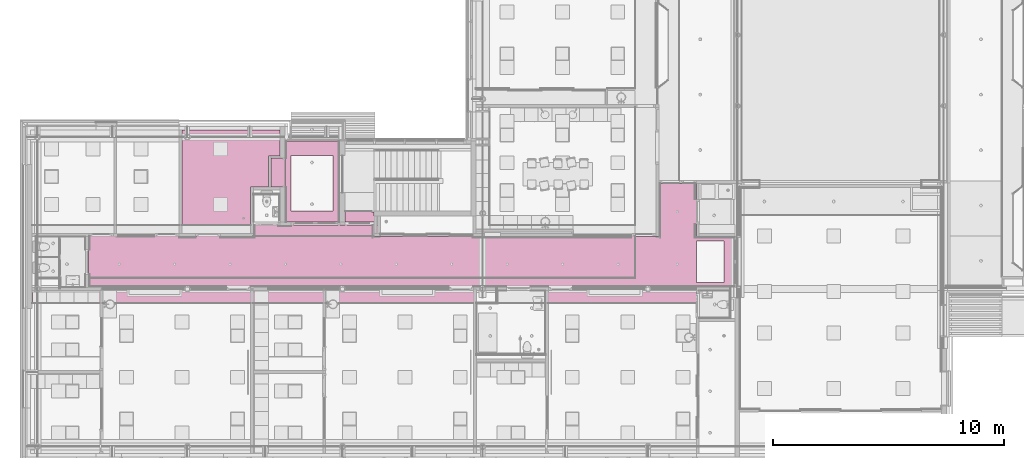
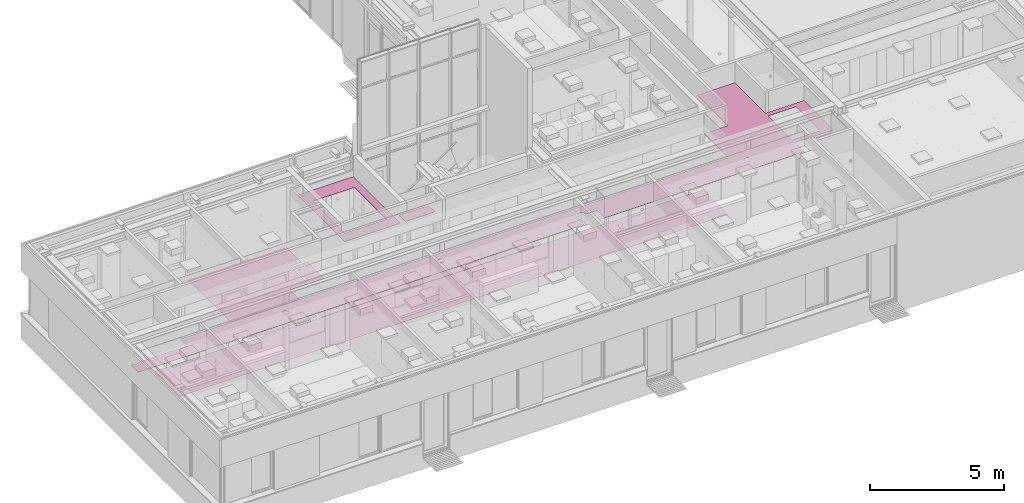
# One storey, part 317 of 347: 7 furnishings.
"""IFC2X3 building model written with IfcOpenShell, lengths in millimetres."""

import ifcopenshell
import ifcopenshell.guid

model = None  # the IFC model being written
_history = None  # IfcOwnerHistory: only IFC2X3 demands one
_inside = {}  # id of a spatial element -> (the spatial element, [elements in it])
_under = {}  # id of a project, library or spatial element -> (it, [spatial elements below it])
_declared = {}  # id of a project -> (the project, [libraries it declares])
_typed = {}  # id of a type object -> (the type object, [elements of that type])
_made_of = {}  # id of a material, layer set ... -> (it, [elements and type objects made of it])


def new_model(schema):
    """Start an empty IFC model of exactly this schema.

    Asked for "IFC4X3", IfcOpenShell would pick the latest addendum, in which some entities
    have other attributes; the version numbers below select the first issue.
    IFC2X3 requires an IfcOwnerHistory on every rooted entity: one is made here for all.
    """
    global model, _history
    if schema == "IFC4X3":
        model = ifcopenshell.file(schema_version=(4, 3, 0, 0))
    else:
        model = ifcopenshell.file(schema=schema)
    _inside.clear()
    _under.clear()
    _declared.clear()
    _typed.clear()
    _made_of.clear()
    _history = None
    if model.schema == "IFC2X3":
        org = make("IfcOrganization", Name="unknown")
        user = make(
            "IfcPersonAndOrganization",
            ThePerson=make("IfcPerson", FamilyName="unknown"),
            TheOrganization=org,
        )
        app = make(
            "IfcApplication",
            ApplicationDeveloper=org,
            Version="unknown",
            ApplicationFullName="unknown",
            ApplicationIdentifier="unknown",
        )
        _history = make(
            "IfcOwnerHistory",
            OwningUser=user,
            OwningApplication=app,
            ChangeAction="ADDED",
            CreationDate=0,
        )
    return model


def make(cls, **values):
    """One entity of the class cls with the attributes given. An attribute that is None is left unset."""
    return model.create_entity(
        cls, **{name: value for name, value in values.items() if value is not None}
    )


def entity(cls, *values):
    """Any entity or typed value of the class cls, its attributes in the order of the schema. None: left unset."""
    e = model.create_entity(cls)
    for i, value in enumerate(values):
        if value is not None:
            e[i] = value
    return e


def rooted(cls, **values):
    """An entity with a GlobalId (a new one), such as an element, a storey or a relation."""
    return make(cls, GlobalId=ifcopenshell.guid.new(), OwnerHistory=_history, **values)


def si_unit(unit_type, name, prefix=None):
    """IfcSIUnit, for example si_unit("LENGTHUNIT", "METRE", prefix="MILLI")."""
    return make("IfcSIUnit", UnitType=unit_type, Prefix=prefix, Name=name)


def converted_unit(unit_type, name, factor, base, dimensions=None, offset=None):
    """IfcConversionBasedUnit, such as the inch: factor (a typed value) times the base unit."""
    return make(
        "IfcConversionBasedUnit"
        if offset is None
        else "IfcConversionBasedUnitWithOffset",
        ConversionOffset=offset,
        Dimensions=None
        if dimensions is None
        else entity("IfcDimensionalExponents", *dimensions),
        UnitType=unit_type,
        Name=name,
        ConversionFactor=make(
            "IfcMeasureWithUnit", ValueComponent=factor, UnitComponent=base
        ),
    )


def derived_unit(unit_type, elements):
    """IfcDerivedUnit: a product of units, each with its exponent."""
    return make(
        "IfcDerivedUnit",
        Elements=[
            make("IfcDerivedUnitElement", Unit=unit, Exponent=power)
            for unit, power in elements
        ],
        UnitType=unit_type,
    )


def money_unit(currency):
    """IfcMonetaryUnit."""
    return make("IfcMonetaryUnit", Currency=currency)


def assignment(units):
    """IfcUnitAssignment: the units of a project."""
    return None if units is None else make("IfcUnitAssignment", Units=units)


def point(xyz):
    """IfcCartesianPoint."""
    return None if xyz is None else make("IfcCartesianPoint", Coordinates=xyz)


def direction(xyz):
    """IfcDirection."""
    return None if xyz is None else make("IfcDirection", DirectionRatios=xyz)


def frame(location, z_axis=None, x_axis=None):
    """IfcAxis2Placement3D, a coordinate frame: its origin and axes. An axis left out is left unset."""
    return make(
        "IfcAxis2Placement3D",
        Location=point(location),
        Axis=direction(z_axis),
        RefDirection=direction(x_axis),
    )


def origin_with_axes():
    """The frame at (0, 0, 0) with the z axis (0, 0, 1) and the x axis (1, 0, 0) written out."""
    return frame((0.0, 0.0, 0.0), z_axis=(0.0, 0.0, 1.0), x_axis=(1.0, 0.0, 0.0))


def place(relative_to, where):
    """IfcLocalPlacement: puts the frame where relative to a parent placement (None: the world)."""
    return make(
        "IfcLocalPlacement", PlacementRelTo=relative_to, RelativePlacement=where
    )


def context(
    kind, dimensions, precision=None, world=None, true_north=None, identifier=None
):
    """IfcGeometricRepresentationContext, for example the 3D "Model" context."""
    return make(
        "IfcGeometricRepresentationContext",
        ContextIdentifier=identifier,
        ContextType=kind,
        CoordinateSpaceDimension=dimensions,
        Precision=precision,
        WorldCoordinateSystem=world,
        TrueNorth=true_north,
    )


def subcontext(parent, identifier, kind, view, scale=None):
    """IfcGeometricRepresentationSubContext, for example "Body" below "Model"."""
    return make(
        "IfcGeometricRepresentationSubContext",
        ContextIdentifier=identifier,
        ContextType=kind,
        ParentContext=parent,
        TargetScale=scale,
        TargetView=view,
    )


def project(units=None, contexts=None):
    """IfcProject with its units and contexts."""
    return rooted(
        "IfcProject",
        Name="project",
        RepresentationContexts=contexts,
        UnitsInContext=assignment(units),
    )


def spatial(cls, under=None, at=None, **own):
    """A site, building, storey or space (cls), placed at a placement, below another one or the project."""
    s = rooted(cls, ObjectPlacement=at, **own)
    if under is not None:
        _under.setdefault(under.id(), (under, []))[1].append(s)
    return s


def faces_of(points, faces, orient=None, outer=None):
    """IfcFace entities. A face is a list of loops; a loop is a list of indices into points, from 0.

    orient and outer hold one flag for each loop. By default every Orientation is true, the
    first loop of a face is its IfcFaceOuterBound and the others are IfcFaceBound.
    """
    made = []
    for i, loops in enumerate(faces):
        bounds = []
        for j, loop in enumerate(loops):
            is_outer = j == 0 if outer is None else outer[i][j]
            bounds.append(
                make(
                    "IfcFaceOuterBound" if is_outer else "IfcFaceBound",
                    Bound=make("IfcPolyLoop", Polygon=[points[k] for k in loop]),
                    Orientation=True if orient is None else orient[i][j],
                )
            )
        made.append(make("IfcFace", Bounds=bounds))
    return made


def faceted_brep(points, faces, orient=None, outer=None, voids=None):
    """IfcFacetedBrep: a solid bounded by flat faces; with voids (closed shells), ...WithVoids."""
    shared = [point(p) for p in points]
    hull = make("IfcClosedShell", CfsFaces=faces_of(shared, faces, orient, outer))
    if voids is None:
        return make("IfcFacetedBrep", Outer=hull)
    return make(
        "IfcFacetedBrepWithVoids",
        Outer=hull,
        Voids=[
            make(cls, CfsFaces=faces_of(shared, fs, o, b)) for cls, fs, o, b in voids
        ],
    )


def shape(context_of_items, identifier, shape_type, items):
    """IfcShapeRepresentation: the items that make up one representation, for example the "Body"."""
    return make(
        "IfcShapeRepresentation",
        ContextOfItems=context_of_items,
        RepresentationIdentifier=identifier,
        RepresentationType=shape_type,
        Items=items,
    )


def material(Name=None, Category=None):
    """IfcMaterial."""
    return make("IfcMaterial", Name=Name, Category=Category)


def made_of(thing, what):
    """Note that an element or type object is made of a material, layer set ...; save() writes the relation."""
    if what is not None:
        _made_of.setdefault(what.id(), (what, []))[1].append(thing)
    return thing


def type_object(cls, material=None, **own):
    """A type object (cls), such as IfcWallType, which elements share."""
    return made_of(rooted(cls, **own), material)


def element(
    cls,
    number,
    at=None,
    inside=None,
    cuts=None,
    type_object=None,
    material=None,
    context=None,
    identifier="Body",
    shape_type=None,
    held_by="IfcProductDefinitionShape",
    body=None,
    shapes=None,
    **own,
):
    """One element of the class cls, such as IfcWall. Its Tag is "e" and its number.

    at: its placement. inside: the storey or other place that contains it. cuts: it is an
    opening in that element (IfcRelVoidsElement). A single representation is given by context,
    identifier, shape_type and body (its items); several are given by shapes. held_by: the class
    of the entity that holds the representations. save() writes the other relations.
    """
    e = rooted(cls, Tag="e%d" % number, ObjectPlacement=at, **own)
    if body is not None:
        shapes = [shape(context, identifier, shape_type, body)]
    if shapes is not None:
        e.Representation = make(held_by, Representations=shapes)
    if inside is not None:
        _inside.setdefault(inside.id(), (inside, []))[1].append(e)
    if cuts is not None:
        rooted(
            "IfcRelVoidsElement", RelatingBuildingElement=cuts, RelatedOpeningElement=e
        )
    if type_object is not None:
        _typed.setdefault(type_object.id(), (type_object, []))[1].append(e)
    return made_of(e, material)


def aggregate(whole, parts):
    """IfcRelAggregates: a whole, such as a stair, and the parts it consists of."""
    return rooted("IfcRelAggregates", RelatingObject=whole, RelatedObjects=parts)


def save(model, path):
    """Write the relations noted so far, then the file.

    IfcRelAggregates (storeys below a building ...), IfcRelContainedInSpatialStructure (elements
    in a storey), IfcRelDefinesByType, IfcRelAssociatesMaterial and IfcRelDeclares: one each for
    every whole, place, type object, material and project.
    """
    for whole, parts in _under.values():
        aggregate(whole, parts)
    for where, things in _inside.values():
        rooted(
            "IfcRelContainedInSpatialStructure",
            RelatedElements=things,
            RelatingStructure=where,
        )
    for kind, things in _typed.values():
        rooted("IfcRelDefinesByType", RelatedObjects=things, RelatingType=kind)
    for what, things in _made_of.values():
        rooted("IfcRelAssociatesMaterial", RelatedObjects=things, RelatingMaterial=what)
    for by, libraries in _declared.values():
        rooted("IfcRelDeclares", RelatingContext=by, RelatedDefinitions=libraries)
    model.write(path)


model = new_model("IFC2X3")

# Units and contexts
model_context = context("Model", 3, precision=0.01, world=origin_with_axes(), true_north=direction((0.0, 1.0)))
plan_context = context("Plan", 3, precision=0.01, world=origin_with_axes(), true_north=direction((0.0, 1.0)))
body_context = subcontext(model_context, "Body", "Model", "MODEL_VIEW")
ifc_project = project(units=[si_unit("LENGTHUNIT", "METRE", prefix="MILLI"), si_unit("AREAUNIT", "SQUARE_METRE"), si_unit("VOLUMEUNIT", "CUBIC_METRE"), converted_unit("PLANEANGLEUNIT", "DEGREE", entity("IfcPlaneAngleMeasure", 0.0174532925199), si_unit("PLANEANGLEUNIT", "RADIAN"), dimensions=[0, 0, 0, 0, 0, 0, 0]), money_unit("EUR"), converted_unit("TIMEUNIT", "Year", entity("IfcTimeMeasure", 31556926.0), si_unit("TIMEUNIT", "SECOND"), dimensions=[0, 0, 1, 0, 0, 0, 0]), si_unit("MASSUNIT", "GRAM", prefix="KILO"), si_unit("THERMODYNAMICTEMPERATUREUNIT", "DEGREE_CELSIUS"), si_unit("LUMINOUSINTENSITYUNIT", "LUMEN"), si_unit("ENERGYUNIT", "JOULE", prefix="MEGA"), derived_unit("THERMALCONDUCTANCEUNIT", [(si_unit("POWERUNIT", "WATT"), 1), (si_unit("LENGTHUNIT", "METRE"), -1), (si_unit("THERMODYNAMICTEMPERATUREUNIT", "KELVIN"), -1)]), derived_unit("SPECIFICHEATCAPACITYUNIT", [(si_unit("ENERGYUNIT", "JOULE"), 1), (si_unit("MASSUNIT", "GRAM", prefix="KILO"), -1), (si_unit("THERMODYNAMICTEMPERATUREUNIT", "KELVIN"), -1)]), derived_unit("MASSDENSITYUNIT", [(si_unit("MASSUNIT", "GRAM", prefix="KILO"), 1), (si_unit("VOLUMEUNIT", "CUBIC_METRE"), -1)])], contexts=[model_context, plan_context])

# Site, building, storey
site_placement = place(None, origin_with_axes())
site = spatial("IfcSite", under=ifc_project, at=site_placement, Name="Site", CompositionType="ELEMENT")
building_placement = place(site_placement, origin_with_axes())
building = spatial("IfcBuilding", under=site, at=building_placement, Name="Naam gebouw", CompositionType="ELEMENT")
storey_placement = place(building_placement, origin_with_axes())
storey = spatial("IfcBuildingStorey", under=building, at=storey_placement, Name="begane grond", CompositionType="ELEMENT", Elevation=0.0)

# Furnishings
ifc_material_1 = material(Name="ALG - LICHTE SCHEIDINGSWAND")
furniture_type_1 = type_object("IfcFurnitureType", Name="44 koof plaf 50", AssemblyPlace="NOTDEFINED")
furnishing_1_placement = place(storey_placement, frame((18615.0, 15015.0, 2600.0), z_axis=(0.0, 0.0, 1.0), x_axis=(1.0, 0.0, 0.0)))
element("IfcFurnishingElement", 1, at=furnishing_1_placement, inside=storey, type_object=furniture_type_1, material=ifc_material_1, Name="72_75 vaste inrichting", ObjectType="SHELF", context=body_context, shape_type="Brep", body=[
    faceted_brep([(1290.0, 0.0, 0.0), (1290.0, 275.0, 0.0), (1290.0, 275.0, 12.0), (1290.0, 0.0, 12.0), (1250.0, 435.0, 0.0), (1250.0, 275.0, 0.0), (0.0, 0.0, 0.0), (0.0, 485.0, 0.0), (1150.0, 485.0, 0.0), (1150.0, 435.0, 0.0), (1250.0, 275.0, 12.0), (1250.0, 435.0, 12.0), (1150.0, 435.0, 12.0), (1150.0, 485.0, 12.0), (0.0, 485.0, 12.0), (0.0, 0.0, 12.0)], [[[0, 1, 2, 3]], [[4, 5, 1, 0, 6, 7, 8, 9]], [[5, 10, 2, 1]], [[11, 12, 13, 14, 15, 3, 2, 10]], [[3, 15, 6, 0]], [[4, 11, 10, 5]], [[15, 14, 7, 6]], [[14, 13, 8, 7]], [[9, 8, 13, 12]], [[9, 12, 11, 4]]]),
])
furnishing_2_placement = place(storey_placement, frame((16005.0, 15015.0, 2600.0), z_axis=(0.0, 0.0, 1.0), x_axis=(1.0, 0.0, 0.0)))
element("IfcFurnishingElement", 2, at=furnishing_2_placement, inside=storey, type_object=furniture_type_1, material=ifc_material_1, Name="72_75 vaste inrichting", ObjectType="SHELF", context=body_context, shape_type="Brep", body=[
    faceted_brep([(0.0, 0.0, 12.0), (0.0, 0.0, 0.0), (2400.0, 0.0, 0.0), (2400.0, 0.0, 12.0), (0.0, 3518.00000094, 12.0), (0.0, 3518.00000094, 0.0), (2400.0, 3518.00000094, 0.0), (280.000052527, 2885.0, 0.0), (280.000052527, 485.0, 0.0), (2080.00005253, 485.0, 0.0), (2080.00005253, 2885.0, 0.0), (2400.0, 3518.00000094, 12.0), (2080.00005253, 485.0, 12.0), (280.000052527, 485.0, 12.0), (280.000052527, 2885.0, 12.0), (2080.00005253, 2885.0, 12.0)], [[[0, 1, 2, 3]], [[4, 5, 1, 0]], [[2, 1, 5, 6], [7, 8, 9, 10]], [[3, 2, 6, 11]], [[4, 0, 3, 11], [12, 13, 14, 15]], [[11, 6, 5, 4]], [[13, 8, 7, 14]], [[12, 9, 8, 13]], [[15, 10, 9, 12]], [[14, 7, 10, 15]]]),
])
furnishing_3_placement = place(storey_placement, frame((7500.00013636, 12062.5, 2600.0), z_axis=(0.0, 0.0, 1.0), x_axis=(1.0, 0.0, 0.0)))
element("IfcFurnishingElement", 3, at=furnishing_3_placement, inside=storey, type_object=furniture_type_1, material=ifc_material_1, Name="72_75 vaste inrichting", ObjectType="SHELF", context=body_context, shape_type="Brep", body=[
    faceted_brep([(17170.5787624, 138.721628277, 12.0), (17185.1433077, 115.542287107, 12.0), (17194.1848009, 89.7031841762, 12.0), (17197.2498636, 62.5, 12.0), (17194.1848009, 35.2968158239, 12.0), (17185.1433077, 9.4577128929, 12.0), (17179.2006329, 0.0, 12.0), (17699.9998636, 0.0, 12.0), (17699.9998636, -562.50002799, 12.0), (26324.9998636, -562.50002799, 12.0), (26324.9998636, 125.0, 12.0), (27994.9998636, 125.0, 12.0), (27994.9998636, 2337.5, 12.0), (26324.9998636, 2337.5, 12.0), (26324.9998636, 4637.49999887, 12.0), (24699.9998636, 4637.49999887, 12.0), (24699.9998636, 2337.5, 12.0), (23674.9998636, 2337.5, 12.0), (23674.9998636, 537.5, 12.0), (0.0, 537.5, 12.0), (0.0, 0.0, 12.0), (-2095.79936714, 0.0, 12.0), (-2104.42123763, -13.7216282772, 12.0), (-2123.77850809, -33.0788987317, 12.0), (-2146.95784926, -47.6434441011, 12.0), (-2172.79695219, -56.6849372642, 12.0), (-2200.00013636, -59.75, 12.0), (-2227.20332054, -56.6849372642, 12.0), (-2253.04242347, -47.6434441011, 12.0), (-2276.22176464, -33.0788987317, 12.0), (-2295.5790351, -13.7216282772, 12.0), (-2304.20090559, 0.0, 12.0), (-2440.00013637, 0.0, 12.0), (-2440.00013637, -562.50002799, 12.0), (16799.9998636, -562.50002799, 12.0), (16799.9998636, 0.0, 12.0), (16970.7990944, 0.0, 12.0), (16964.8564195, 9.4577128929, 12.0), (16955.8149264, 35.2968158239, 12.0), (16952.7498636, 62.5, 12.0), (16955.8149264, 89.7031841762, 12.0), (16964.8564195, 115.542287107, 12.0), (16979.4209649, 138.721628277, 12.0), (16998.7782354, 158.078898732, 12.0), (17021.9575765, 172.643444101, 12.0), (17047.7966795, 181.684937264, 12.0), (17074.9998636, 184.75, 12.0), (17102.2030478, 181.684937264, 12.0), (17128.0421507, 172.643444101, 12.0), (17151.2214919, 158.078898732, 12.0), (27524.9998636, 337.5, 12.0), (26324.9998636, 337.5, 12.0), (26324.9998636, 2137.5, 12.0), (27524.9998636, 2137.5, 12.0), (24333.0787624, 138.721628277, 12.0), (24347.6433077, 115.542287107, 12.0), (24356.6848009, 89.7031841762, 12.0), (24359.7498636, 62.5, 12.0), (24356.6848009, 35.2968158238, 12.0), (24347.6433077, 9.45771289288, 12.0), (24333.0787624, -13.7216282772, 12.0), (24313.7214919, -33.0788987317, 12.0), (24290.5421507, -47.6434441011, 12.0), (24264.7030478, -56.6849372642, 12.0), (24237.4998636, -59.75, 12.0), (24210.2966795, -56.6849372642, 12.0), (24184.4575765, -47.6434441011, 12.0), (24161.2782354, -33.0788987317, 12.0), (24141.9209649, -13.7216282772, 12.0), (24127.3564195, 9.45771289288, 12.0), (24118.3149264, 35.2968158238, 12.0), (24115.2498636, 62.5, 12.0), (24118.3149264, 89.7031841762, 12.0), (24127.3564195, 115.542287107, 12.0), (24141.9209649, 138.721628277, 12.0), (24161.2782354, 158.078898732, 12.0), (24184.4575765, 172.643444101, 12.0), (24210.2966795, 181.684937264, 12.0), (24237.4998636, 184.75, 12.0), (24264.7030478, 181.684937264, 12.0), (24290.5421507, 172.643444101, 12.0), (24313.7214919, 158.078898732, 12.0), (4383.07876237, 138.721628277, 12.0), (4397.64330774, 115.542287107, 12.0), (4406.6848009, 89.7031841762, 12.0), (4409.74986363, 62.5, 12.0), (4406.6848009, 35.2968158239, 12.0), (4397.64330774, 9.4577128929, 12.0), (4383.07876237, -13.7216282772, 12.0), (4363.72149191, -33.0788987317, 12.0), (4340.54215074, -47.6434441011, 12.0), (4314.70304781, -56.6849372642, 12.0), (4287.49986363, -59.75, 12.0), (4260.29667946, -56.6849372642, 12.0), (4234.45757653, -47.6434441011, 12.0), (4211.27823536, -33.0788987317, 12.0), (4191.9209649, -13.7216282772, 12.0), (4177.35641953, 9.4577128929, 12.0), (4168.31492637, 35.2968158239, 12.0), (4165.24986363, 62.5, 12.0), (4168.31492637, 89.7031841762, 12.0), (4177.35641953, 115.542287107, 12.0), (4191.9209649, 138.721628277, 12.0), (4211.27823536, 158.078898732, 12.0), (4234.45757653, 172.643444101, 12.0), (4260.29667946, 181.684937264, 12.0), (4287.49986363, 184.75, 12.0), (4314.70304781, 181.684937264, 12.0), (4340.54215074, 172.643444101, 12.0), (4363.72149191, 158.078898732, 12.0), (11100.5787624, 138.721628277, 12.0), (11115.1433077, 115.542287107, 12.0), (11124.1848009, 89.7031841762, 12.0), (11127.2498636, 62.5, 12.0), (11124.1848009, 35.2968158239, 12.0), (11115.1433077, 9.4577128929, 12.0), (11100.5787624, -13.7216282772, 12.0), (11081.2214919, -33.0788987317, 12.0), (11058.0421507, -47.6434441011, 12.0), (11032.2030478, -56.6849372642, 12.0), (11004.9998636, -59.75, 12.0), (10977.7966795, -56.6849372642, 12.0), (10951.9575765, -47.6434441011, 12.0), (10928.7782354, -33.0788987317, 12.0), (10909.4209649, -13.7216282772, 12.0), (10894.8564195, 9.4577128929, 12.0), (10885.8149264, 35.2968158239, 12.0), (10882.7498636, 62.5, 12.0), (10885.8149264, 89.7031841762, 12.0), (10894.8564195, 115.542287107, 12.0), (10909.4209649, 138.721628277, 12.0), (10928.7782354, 158.078898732, 12.0), (10951.9575765, 172.643444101, 12.0), (10977.7966795, 181.684937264, 12.0), (11004.9998636, 184.75, 12.0), (11032.2030478, 181.684937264, 12.0), (11058.0421507, 172.643444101, 12.0), (11081.2214919, 158.078898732, 12.0), (17185.1433077, 115.542287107, 0.0), (17170.5787624, 138.721628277, 0.0), (17194.1848009, 89.7031841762, 0.0), (17197.2498636, 62.5, 0.0), (17194.1848009, 35.2968158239, 0.0), (17185.1433077, 9.4577128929, 0.0), (17179.2006329, 0.0, 0.0), (17699.9998636, 0.0, 0.0), (17699.9998636, -562.50002799, 0.0), (26324.9998636, -562.50002799, 0.0), (26324.9998636, 125.0, 0.0), (27994.9998636, 125.0, 0.0), (27994.9998636, 2337.5, 0.0), (26324.9998636, 2337.5, 0.0), (26324.9998636, 4637.49999887, 0.0), (24699.9998636, 4637.49999887, 0.0), (24699.9998636, 2337.5, 0.0), (23674.9998636, 2337.5, 0.0), (23674.9998636, 537.5, 0.0), (0.0, 537.5, 0.0), (0.0, 0.0, 0.0), (-2095.79936714, 0.0, 0.0), (-2104.42123763, -13.7216282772, 0.0), (-2123.77850809, -33.0788987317, 0.0), (-2146.95784926, -47.6434441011, 0.0), (-2172.79695219, -56.6849372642, 0.0), (-2200.00013636, -59.75, 0.0), (-2227.20332054, -56.6849372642, 0.0), (-2253.04242347, -47.6434441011, 0.0), (-2276.22176464, -33.0788987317, 0.0), (-2295.5790351, -13.7216282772, 0.0), (-2304.20090559, 0.0, 0.0), (-2440.00013637, 0.0, 0.0), (-2440.00013637, -562.50002799, 0.0), (16799.9998636, -562.50002799, 0.0), (16799.9998636, 0.0, 0.0), (16970.7990944, 0.0, 0.0), (16964.8564195, 9.4577128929, 0.0), (16955.8149264, 35.2968158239, 0.0), (16952.7498636, 62.5, 0.0), (16955.8149264, 89.7031841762, 0.0), (16964.8564195, 115.542287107, 0.0), (16979.4209649, 138.721628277, 0.0), (16998.7782354, 158.078898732, 0.0), (17021.9575765, 172.643444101, 0.0), (17047.7966795, 181.684937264, 0.0), (17074.9998636, 184.75, 0.0), (17102.2030478, 181.684937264, 0.0), (17128.0421507, 172.643444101, 0.0), (17151.2214919, 158.078898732, 0.0), (27524.9998636, 337.5, 0.0), (26324.9998636, 337.5, 0.0), (26324.9998636, 2137.5, 0.0), (27524.9998636, 2137.5, 0.0), (24347.6433077, 115.542287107, 0.0), (24333.0787624, 138.721628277, 0.0), (24356.6848009, 89.7031841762, 0.0), (24359.7498636, 62.5, 0.0), (24356.6848009, 35.2968158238, 0.0), (24347.6433077, 9.45771289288, 0.0), (24333.0787624, -13.7216282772, 0.0), (24313.7214919, -33.0788987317, 0.0), (24290.5421507, -47.6434441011, 0.0), (24264.7030478, -56.6849372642, 0.0), (24237.4998636, -59.75, 0.0), (24210.2966795, -56.6849372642, 0.0), (24184.4575765, -47.6434441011, 0.0), (24161.2782354, -33.0788987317, 0.0), (24141.9209649, -13.7216282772, 0.0), (24127.3564195, 9.45771289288, 0.0), (24118.3149264, 35.2968158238, 0.0), (24115.2498636, 62.5, 0.0), (24118.3149264, 89.7031841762, 0.0), (24127.3564195, 115.542287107, 0.0), (24141.9209649, 138.721628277, 0.0), (24161.2782354, 158.078898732, 0.0), (24184.4575765, 172.643444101, 0.0), (24210.2966795, 181.684937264, 0.0), (24237.4998636, 184.75, 0.0), (24264.7030478, 181.684937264, 0.0), (24290.5421507, 172.643444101, 0.0), (24313.7214919, 158.078898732, 0.0), (4397.64330774, 115.542287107, 0.0), (4383.07876237, 138.721628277, 0.0), (4406.6848009, 89.7031841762, 0.0), (4409.74986363, 62.5, 0.0), (4406.6848009, 35.2968158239, 0.0), (4397.64330774, 9.4577128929, 0.0), (4383.07876237, -13.7216282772, 0.0), (4363.72149191, -33.0788987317, 0.0), (4340.54215074, -47.6434441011, 0.0), (4314.70304781, -56.6849372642, 0.0), (4287.49986363, -59.75, 0.0), (4260.29667946, -56.6849372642, 0.0), (4234.45757653, -47.6434441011, 0.0), (4211.27823536, -33.0788987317, 0.0), (4191.9209649, -13.7216282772, 0.0), (4177.35641953, 9.4577128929, 0.0), (4168.31492637, 35.2968158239, 0.0), (4165.24986363, 62.5, 0.0), (4168.31492637, 89.7031841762, 0.0), (4177.35641953, 115.542287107, 0.0), (4191.9209649, 138.721628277, 0.0), (4211.27823536, 158.078898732, 0.0), (4234.45757653, 172.643444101, 0.0), (4260.29667946, 181.684937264, 0.0), (4287.49986363, 184.75, 0.0), (4314.70304781, 181.684937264, 0.0), (4340.54215074, 172.643444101, 0.0), (4363.72149191, 158.078898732, 0.0), (11115.1433077, 115.542287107, 0.0), (11100.5787624, 138.721628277, 0.0), (11124.1848009, 89.7031841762, 0.0), (11127.2498636, 62.5, 0.0), (11124.1848009, 35.2968158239, 0.0), (11115.1433077, 9.4577128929, 0.0), (11100.5787624, -13.7216282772, 0.0), (11081.2214919, -33.0788987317, 0.0), (11058.0421507, -47.6434441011, 0.0), (11032.2030478, -56.6849372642, 0.0), (11004.9998636, -59.75, 0.0), (10977.7966795, -56.6849372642, 0.0), (10951.9575765, -47.6434441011, 0.0), (10928.7782354, -33.0788987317, 0.0), (10909.4209649, -13.7216282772, 0.0), (10894.8564195, 9.4577128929, 0.0), (10885.8149264, 35.2968158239, 0.0), (10882.7498636, 62.5, 0.0), (10885.8149264, 89.7031841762, 0.0), (10894.8564195, 115.542287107, 0.0), (10909.4209649, 138.721628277, 0.0), (10928.7782354, 158.078898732, 0.0), (10951.9575765, 172.643444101, 0.0), (10977.7966795, 181.684937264, 0.0), (11004.9998636, 184.75, 0.0), (11032.2030478, 181.684937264, 0.0), (11058.0421507, 172.643444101, 0.0), (11081.2214919, 158.078898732, 0.0)], [[[0, 1, 2, 3, 4, 5, 6, 7, 8, 9, 10, 11, 12, 13, 14, 15, 16, 17, 18, 19, 20, 21, 22, 23, 24, 25, 26, 27, 28, 29, 30, 31, 32, 33, 34, 35, 36, 37, 38, 39, 40, 41, 42, 43, 44, 45, 46, 47, 48, 49], [50, 51, 52, 53], [54, 55, 56, 57, 58, 59, 60, 61, 62, 63, 64, 65, 66, 67, 68, 69, 70, 71, 72, 73, 74, 75, 76, 77, 78, 79, 80, 81], [82, 83, 84, 85, 86, 87, 88, 89, 90, 91, 92, 93, 94, 95, 96, 97, 98, 99, 100, 101, 102, 103, 104, 105, 106, 107, 108, 109], [110, 111, 112, 113, 114, 115, 116, 117, 118, 119, 120, 121, 122, 123, 124, 125, 126, 127, 128, 129, 130, 131, 132, 133, 134, 135, 136, 137]], [[138, 1, 0, 139]], [[140, 2, 1, 138]], [[141, 3, 2, 140]], [[142, 4, 3, 141]], [[143, 5, 4, 142]], [[144, 6, 5, 143]], [[7, 6, 144, 145]], [[8, 7, 145, 146]], [[9, 8, 146, 147]], [[10, 9, 147, 148]], [[11, 10, 148, 149]], [[12, 11, 149, 150]], [[13, 12, 150, 151]], [[14, 13, 151, 152]], [[15, 14, 152, 153]], [[16, 15, 153, 154]], [[17, 16, 154, 155]], [[18, 17, 155, 156]], [[19, 18, 156, 157]], [[20, 19, 157, 158]], [[158, 159, 21, 20]], [[160, 22, 21, 159]], [[161, 23, 22, 160]], [[162, 24, 23, 161]], [[163, 25, 24, 162]], [[164, 26, 25, 163]], [[165, 27, 26, 164]], [[166, 28, 27, 165]], [[167, 29, 28, 166]], [[168, 30, 29, 167]], [[169, 31, 30, 168]], [[32, 31, 169, 170]], [[33, 32, 170, 171]], [[34, 33, 171, 172]], [[35, 34, 172, 173]], [[173, 174, 36, 35]], [[175, 37, 36, 174]], [[176, 38, 37, 175]], [[177, 39, 38, 176]], [[178, 40, 39, 177]], [[179, 41, 40, 178]], [[180, 42, 41, 179]], [[181, 43, 42, 180]], [[182, 44, 43, 181]], [[183, 45, 44, 182]], [[184, 46, 45, 183]], [[185, 47, 46, 184]], [[186, 48, 47, 185]], [[187, 49, 48, 186]], [[139, 0, 49, 187]], [[51, 50, 188, 189]], [[52, 51, 189, 190]], [[53, 52, 190, 191]], [[50, 53, 191, 188]], [[192, 55, 54, 193]], [[194, 56, 55, 192]], [[195, 57, 56, 194]], [[196, 58, 57, 195]], [[197, 59, 58, 196]], [[198, 60, 59, 197]], [[199, 61, 60, 198]], [[200, 62, 61, 199]], [[201, 63, 62, 200]], [[202, 64, 63, 201]], [[203, 65, 64, 202]], [[204, 66, 65, 203]], [[205, 67, 66, 204]], [[206, 68, 67, 205]], [[207, 69, 68, 206]], [[208, 70, 69, 207]], [[209, 71, 70, 208]], [[210, 72, 71, 209]], [[211, 73, 72, 210]], [[212, 74, 73, 211]], [[213, 75, 74, 212]], [[214, 76, 75, 213]], [[215, 77, 76, 214]], [[216, 78, 77, 215]], [[217, 79, 78, 216]], [[218, 80, 79, 217]], [[219, 81, 80, 218]], [[193, 54, 81, 219]], [[220, 83, 82, 221]], [[222, 84, 83, 220]], [[223, 85, 84, 222]], [[224, 86, 85, 223]], [[225, 87, 86, 224]], [[226, 88, 87, 225]], [[227, 89, 88, 226]], [[228, 90, 89, 227]], [[229, 91, 90, 228]], [[230, 92, 91, 229]], [[231, 93, 92, 230]], [[232, 94, 93, 231]], [[233, 95, 94, 232]], [[234, 96, 95, 233]], [[235, 97, 96, 234]], [[236, 98, 97, 235]], [[237, 99, 98, 236]], [[238, 100, 99, 237]], [[239, 101, 100, 238]], [[240, 102, 101, 239]], [[241, 103, 102, 240]], [[242, 104, 103, 241]], [[243, 105, 104, 242]], [[244, 106, 105, 243]], [[245, 107, 106, 244]], [[246, 108, 107, 245]], [[247, 109, 108, 246]], [[221, 82, 109, 247]], [[248, 111, 110, 249]], [[250, 112, 111, 248]], [[251, 113, 112, 250]], [[252, 114, 113, 251]], [[253, 115, 114, 252]], [[254, 116, 115, 253]], [[255, 117, 116, 254]], [[256, 118, 117, 255]], [[257, 119, 118, 256]], [[258, 120, 119, 257]], [[259, 121, 120, 258]], [[260, 122, 121, 259]], [[261, 123, 122, 260]], [[262, 124, 123, 261]], [[263, 125, 124, 262]], [[264, 126, 125, 263]], [[265, 127, 126, 264]], [[266, 128, 127, 265]], [[267, 129, 128, 266]], [[268, 130, 129, 267]], [[269, 131, 130, 268]], [[270, 132, 131, 269]], [[271, 133, 132, 270]], [[272, 134, 133, 271]], [[273, 135, 134, 272]], [[274, 136, 135, 273]], [[275, 137, 136, 274]], [[249, 110, 137, 275]], [[176, 175, 174, 173, 172, 171, 170, 169, 168, 167, 166, 165, 164, 163, 162, 161, 160, 159, 158, 157, 156, 155, 154, 153, 152, 151, 150, 149, 148, 147, 146, 145, 144, 143, 142, 141, 140, 138, 139, 187, 186, 185, 184, 183, 182, 181, 180, 179, 178, 177], [188, 191, 190, 189], [198, 197, 196, 195, 194, 192, 193, 219, 218, 217, 216, 215, 214, 213, 212, 211, 210, 209, 208, 207, 206, 205, 204, 203, 202, 201, 200, 199], [226, 225, 224, 223, 222, 220, 221, 247, 246, 245, 244, 243, 242, 241, 240, 239, 238, 237, 236, 235, 234, 233, 232, 231, 230, 229, 228, 227], [254, 253, 252, 251, 250, 248, 249, 275, 274, 273, 272, 271, 270, 269, 268, 267, 266, 265, 264, 263, 262, 261, 260, 259, 258, 257, 256, 255]]]),
])
ifc_material_2 = material(Name="43 fresco Barbados 3858")
furniture_type_2 = type_object("IfcFurnitureType", Name="43 fresco Barbados 3858 2", AssemblyPlace="NOTDEFINED")
furnishing_4_placement = place(storey_placement, frame((7500.0, 12600.0, 0.0), z_axis=(0.0, 0.0, 1.0), x_axis=(1.0, 0.0, 0.0)))
element("IfcFurnishingElement", 4, at=furnishing_4_placement, inside=storey, type_object=furniture_type_2, material=ifc_material_2, Name="72_43 marmoleum", ObjectType="SHELF", context=body_context, shape_type="Brep", body=[
    faceted_brep([(0.0, 0.0, 2.0), (0.0, 0.0, 0.0), (23675.0, 0.0, 0.0), (23675.0, 0.0, 2.0), (0.0, 1875.0, 2.0), (0.0, 1875.0, 0.0), (3925.0, 1875.0, 0.0), (3925.0, 1800.0, 0.0), (4715.0, 1800.0, 0.0), (4715.0, 1892.0, 0.0), (5649.0, 1892.0, 0.0), (5649.0, 1800.0, 0.0), (20975.0, 1800.0, 0.0), (20975.0, 1878.0, 0.0), (23675.0, 1878.0, 0.0), (23675.0, 1878.0, 2.0), (20975.0, 1878.0, 2.0), (20975.0, 1800.0, 2.0), (5649.0, 1800.0, 2.0), (5649.0, 1892.0, 2.0), (4715.0, 1892.0, 2.0), (4715.0, 1800.0, 2.0), (3925.0, 1800.0, 2.0), (3925.0, 1875.0, 2.0)], [[[0, 1, 2, 3]], [[4, 5, 1, 0]], [[2, 1, 5, 6, 7, 8, 9, 10, 11, 12, 13, 14]], [[3, 2, 14, 15]], [[4, 0, 3, 15, 16, 17, 18, 19, 20, 21, 22, 23]], [[23, 6, 5, 4]], [[22, 7, 6, 23]], [[21, 8, 7, 22]], [[20, 9, 8, 21]], [[19, 10, 9, 20]], [[18, 11, 10, 19]], [[17, 12, 11, 18]], [[16, 13, 12, 17]], [[15, 14, 13, 16]]]),
])
ifc_material_3 = material(Name="48 vloeivloer Bolidt")
furniture_type_3 = type_object("IfcFurnitureType", Name="48 vloeivloer Bolidt 2", AssemblyPlace="NOTDEFINED")
furnishing_5_placement = place(storey_placement, frame((15405.0, 16540.0, 0.0), z_axis=(0.0, 0.0, 1.0), x_axis=(1.0, 0.0, 0.0)))
element("IfcFurnishingElement", 5, at=furnishing_5_placement, inside=storey, type_object=furniture_type_3, material=ifc_material_3, Name="72_44 vloeivloer", ObjectType="SHELF", context=body_context, shape_type="Brep", body=[
    faceted_brep([(0.0, 0.0, 2.0), (0.0, 0.0, 0.0), (600.0, 0.0, 0.0), (600.0, 0.0, 2.0), (0.0, 1250.0, 2.0), (0.0, 1250.0, 0.0), (600.0, 1250.0, 0.0), (600.0, 1250.0, 2.0)], [[[0, 1, 2, 3]], [[4, 5, 1, 0]], [[2, 1, 5, 6]], [[3, 2, 6, 7]], [[4, 0, 3, 7]], [[7, 6, 5, 4]]]),
])
ifc_material_4 = material(Name="43 Fresco Moonstone 3883")
furniture_type_4 = type_object("IfcFurnitureType", Name="43 Fresco Moonstone 3883 2", AssemblyPlace="NOTDEFINED")
furnishing_6_placement = place(storey_placement, frame((11550.0, 14525.0, 0.0), z_axis=(0.0, 0.0, 1.0), x_axis=(1.0, 0.0, 0.0)))
element("IfcFurnishingElement", 6, at=furnishing_6_placement, inside=storey, type_object=furniture_type_4, material=ifc_material_4, Name="72_43 marmoleum", ObjectType="SHELF", context=body_context, shape_type="Brep", body=[
    faceted_brep([(0.0, 0.0, 2.0), (0.0, 0.0, 0.0), (2975.00000523, 0.0, 0.0), (2975.00000523, 0.0, 2.0), (0.0, 4475.00002477, 2.0), (0.0, 4475.00002477, 0.0), (4245.00000173, 4475.00002477, 0.0), (4245.00000173, 3365.00001709, 0.0), (3754.99996968, 3365.00001709, 0.0), (3754.99996968, 2015.00002618, 0.0), (2975.00000523, 2015.00002618, 0.0), (2975.00000523, 2015.00002618, 2.0), (3754.99996968, 2015.00002618, 2.0), (3754.99996968, 3365.00001709, 2.0), (4245.00000173, 3365.00001709, 2.0), (4245.00000173, 4475.00002477, 2.0)], [[[0, 1, 2, 3]], [[4, 5, 1, 0]], [[2, 1, 5, 6, 7, 8, 9, 10]], [[3, 2, 10, 11]], [[4, 0, 3, 11, 12, 13, 14, 15]], [[15, 6, 5, 4]], [[14, 7, 6, 15]], [[13, 8, 7, 14]], [[12, 9, 8, 13]], [[11, 10, 9, 12]]]),
])
furnishing_7_placement = place(storey_placement, frame((20149.9999762, 14890.0002198, 0.0), z_axis=(0.0, 0.0, 1.0), x_axis=(1.0, 0.0, 0.0)))
element("IfcFurnishingElement", 7, at=furnishing_7_placement, inside=storey, type_object=furniture_type_4, material=ifc_material_4, Name="72_43 marmoleum", ObjectType="SHELF", context=body_context, shape_type="Brep", body=[
    faceted_brep([(0.0, 0.0, 2.0), (0.0, 0.0, 0.0), (-5499.99997616, 0.0, 0.0), (-5499.99997616, 0.0, 2.0), (0.0, 399.999888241, 2.0), (0.0, 399.999888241, 0.0), (4000.00002384, 399.999888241, 0.0), (4000.00002384, -490.000219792, 0.0), (-5499.99997616, -490.000219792, 0.0), (-5499.99997616, -490.000219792, 2.0), (4000.00002384, -490.000219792, 2.0), (4000.00002384, 399.999888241, 2.0)], [[[0, 1, 2, 3]], [[4, 5, 1, 0]], [[2, 1, 5, 6, 7, 8]], [[3, 2, 8, 9]], [[4, 0, 3, 9, 10, 11]], [[11, 6, 5, 4]], [[10, 7, 6, 11]], [[9, 8, 7, 10]]]),
])

save(model, "model.ifc")
